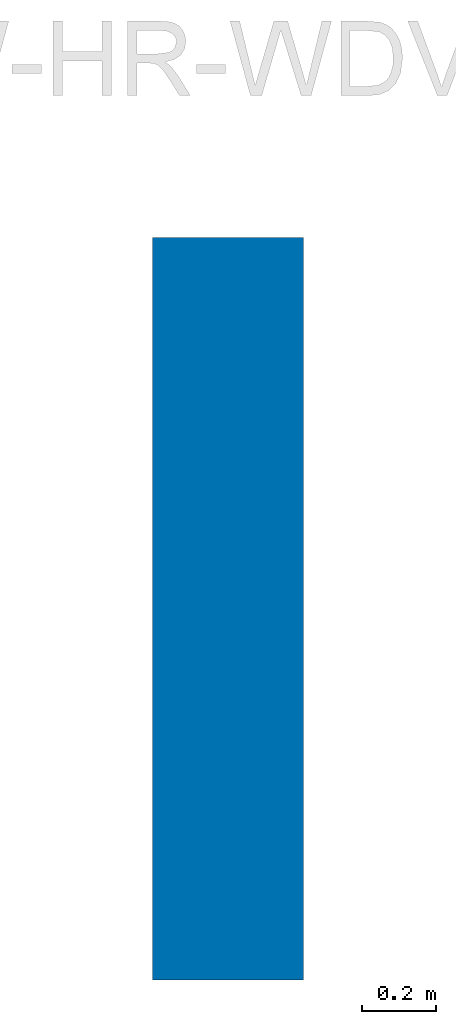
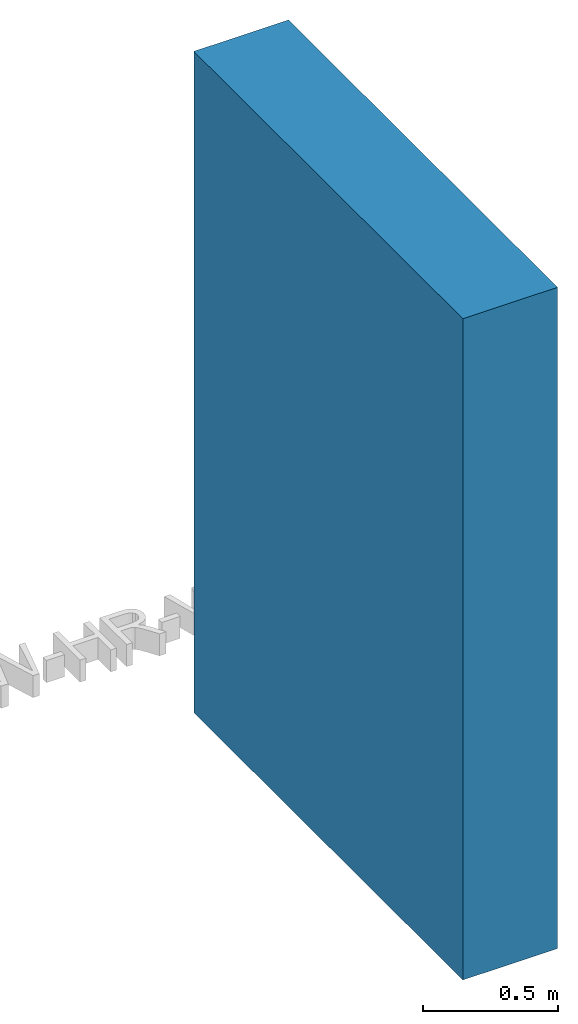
# Not in any storey, part 1 of 2: 1 wall.
"""IFC2X3 model written with IfcOpenShell, lengths in metres."""

from ifc_helpers import new_model, entity, si_unit, converted_unit, derived_unit, direction, frame, frame_2d, origin, place, context, subcontext, project, spatial, rectangle, extrude, material, layer, layer_set, layer_usage, type_object, element, save


model = new_model("IFC2X3")

# Units and contexts
model_context = context("Model", 3, precision=1e-05, world=origin(), true_north=direction((6.123031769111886e-17, 1.0)))
body_context = subcontext(model_context, "Body", "Model", "MODEL_VIEW")
ifc_project = project(units=[si_unit("LENGTHUNIT", "METRE"), si_unit("AREAUNIT", "SQUARE_METRE"), si_unit("VOLUMEUNIT", "CUBIC_METRE"), converted_unit("PLANEANGLEUNIT", "DEGREE", entity("IfcRatioMeasure", 0.017453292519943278), si_unit("PLANEANGLEUNIT", "RADIAN"), dimensions=[0, 0, 0, 0, 0, 0, 0]), si_unit("MASSUNIT", "GRAM", prefix="KILO"), derived_unit("MASSDENSITYUNIT", [(si_unit("MASSUNIT", "GRAM", prefix="KILO"), 1), (si_unit("LENGTHUNIT", "METRE"), -3)]), derived_unit("MOMENTOFINERTIAUNIT", [(si_unit("LENGTHUNIT", "METRE"), 4)]), si_unit("TIMEUNIT", "SECOND"), si_unit("FREQUENCYUNIT", "HERTZ"), si_unit("THERMODYNAMICTEMPERATUREUNIT", "DEGREE_CELSIUS"), derived_unit("THERMALTRANSMITTANCEUNIT", [(si_unit("MASSUNIT", "GRAM", prefix="KILO"), 1), (si_unit("THERMODYNAMICTEMPERATUREUNIT", "KELVIN"), -1), (si_unit("TIMEUNIT", "SECOND"), -3)]), derived_unit("VOLUMETRICFLOWRATEUNIT", [(si_unit("LENGTHUNIT", "METRE"), 3), (si_unit("TIMEUNIT", "SECOND"), -1)]), derived_unit("MASSFLOWRATEUNIT", [(si_unit("MASSUNIT", "GRAM", prefix="KILO"), 1), (si_unit("TIMEUNIT", "SECOND"), -1)]), derived_unit("ROTATIONALFREQUENCYUNIT", [(si_unit("TIMEUNIT", "SECOND"), -1)]), si_unit("ELECTRICCURRENTUNIT", "AMPERE"), si_unit("ELECTRICVOLTAGEUNIT", "VOLT"), si_unit("POWERUNIT", "WATT"), si_unit("FORCEUNIT", "NEWTON", prefix="KILO"), si_unit("ILLUMINANCEUNIT", "LUX"), si_unit("LUMINOUSFLUXUNIT", "LUMEN"), si_unit("LUMINOUSINTENSITYUNIT", "CANDELA"), derived_unit("USERDEFINED", [(si_unit("MASSUNIT", "GRAM", prefix="KILO"), -1), (si_unit("LENGTHUNIT", "METRE"), -2), (si_unit("TIMEUNIT", "SECOND"), 3), (si_unit("LUMINOUSFLUXUNIT", "LUMEN"), 1)]), derived_unit("SOUNDPOWERUNIT", [(si_unit("MASSUNIT", "GRAM", prefix="KILO"), 1), (si_unit("LENGTHUNIT", "METRE"), 2), (si_unit("TIMEUNIT", "SECOND"), -3)]), derived_unit("SOUNDPRESSUREUNIT", [(si_unit("MASSUNIT", "GRAM", prefix="KILO"), 1), (si_unit("LENGTHUNIT", "METRE"), -1), (si_unit("TIMEUNIT", "SECOND"), -2)]), derived_unit("LINEARVELOCITYUNIT", [(si_unit("LENGTHUNIT", "METRE"), 1), (si_unit("TIMEUNIT", "SECOND"), -1)]), si_unit("PRESSUREUNIT", "PASCAL"), derived_unit("USERDEFINED", [(si_unit("LENGTHUNIT", "METRE"), -2), (si_unit("MASSUNIT", "GRAM", prefix="KILO"), 1), (si_unit("TIMEUNIT", "SECOND"), -2)]), derived_unit("LINEARFORCEUNIT", [(si_unit("MASSUNIT", "GRAM", prefix="KILO"), 1), (si_unit("LENGTHUNIT", "METRE"), 1), (si_unit("TIMEUNIT", "SECOND"), -2), (si_unit("LENGTHUNIT", "METRE"), -1)]), derived_unit("PLANARFORCEUNIT", [(si_unit("MASSUNIT", "GRAM", prefix="KILO"), 1), (si_unit("LENGTHUNIT", "METRE"), 1), (si_unit("TIMEUNIT", "SECOND"), -2), (si_unit("LENGTHUNIT", "METRE"), -2)])], contexts=[model_context])

# Site
site_placement = place(None, origin())
site = spatial("IfcSite", under=ifc_project, at=site_placement, Name="Default", CompositionType="ELEMENT")

# Wall
ifc_material_1 = material(Name="fbim_14153515_AT_002_Silikatputz_KP_2mm")
ifc_layer_1 = layer(ifc_material_1, 0.01)
ifc_material_2 = material(Name="fbim_14100530_AT_001_Holzweichfaserplatte")
ifc_layer_2 = layer(ifc_material_2, 0.06)
ifc_material_3 = material(Name="fbim_14104515_AT_090_Zellulose_Einblasdaemmung")
ifc_layer_3 = layer(ifc_material_3, 0.24)
ifc_material_4 = material(Name="fbim_12401520_AT_001_OSB_Platte")
ifc_layer_4 = layer(ifc_material_4, 0.018000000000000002)
ifc_material_5 = material(Name="fbim_16101505_AT_001_Gipsfaserplatte_12.5mm")
ifc_layer_5 = layer(ifc_material_5, 0.0125)
ifc_material_6 = material(Name="fbim_14100510_AT_001_Hanffaserdaemmplatte")
ifc_layer_6 = layer(ifc_material_6, 0.04)
ifc_layer_7 = layer(ifc_material_5, 0.0125)
ifc_layer_8 = layer(ifc_material_5, 0.0125)
ifc_material_7 = material(Name="fbim_16106515_AT_001_Gipsspachtel")
ifc_layer_9 = layer(ifc_material_7, 0.001)
ifc_layer_set = layer_set([ifc_layer_1, ifc_layer_2, ifc_layer_3, ifc_layer_4, ifc_layer_5, ifc_layer_6, ifc_layer_7, ifc_layer_8, ifc_layer_9], Name="Basiswand:fbimSg_Wall_lb_WOD_vis_at_NTR_natuREbuilt_AW-HR-WDV-VS_GK4")
ifc_layer_usage = layer_usage(ifc_layer_set, "AXIS2", "NEGATIVE", 0.20324999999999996)
wall_type = type_object("IfcWallType", Name="Basiswand:fbimSg_Wall_lb_WOD_vis_at_NTR_natuREbuilt_AW-HR-WDV-VS_GK4", PredefinedType="STANDARD", material=ifc_layer_set)
wall_placement = place(site_placement, frame((8.046802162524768, 23.8249930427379, 0.0), z_axis=(0.0, 0.0, 1.0), x_axis=(0.0, -1.0, 0.0)))
element("IfcWallStandardCase", 1, at=wall_placement, inside=site, type_object=wall_type, material=ifc_layer_usage, Name="Basiswand:fbimSg_Wall_lb_WOD_vis_at_NTR_natuREbuilt_AW-HR-WDV-VS_GK4", ObjectType="Basiswand:fbimSg_Wall_lb_WOD_vis_at_NTR_natuREbuilt_AW-HR-WDV-VS_GK4", context=body_context, shape_type="SweptSolid", body=[
    extrude(rectangle(XDim=2.0, YDim=0.4065000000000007, at=frame_2d((1.0, 0.0), x_axis=(-1.0, 0.0))), origin(), (0.0, 0.0, 1.0), 3.0000000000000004),
])

save(model, "model.ifc")
